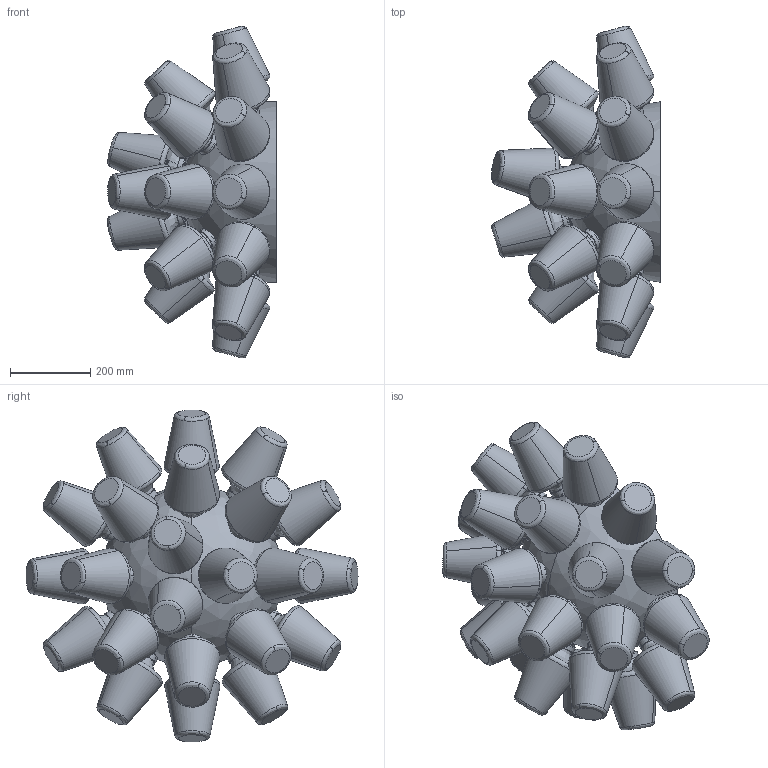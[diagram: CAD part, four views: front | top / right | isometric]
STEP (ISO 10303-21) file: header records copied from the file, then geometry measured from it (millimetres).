
FILE_DESCRIPTION(/* description */ (''),/* implementation_level */ '2;1');
FILE_NAME(/* name */ 'Candy_HalfSphere_CE',/* time_stamp */ '2019-01-11T14:00:14+01:00',/* author */ (''),/* organization */ (''),/* preprocessor_version */ 'ST-DEVELOPER v15',/* originating_system */ '',/* authorisation */ '');
FILE_SCHEMA (('AUTOMOTIVE_DESIGN'));
Length unit declared in the file: millimetre
Products named in the file (2): Document; sklo
Assembly tree (23 placements, depth 2):
  Document
    sklo  x23
Bounding box: 421.69 x 829.77 x 829.77 mm (x, y, z)
Volume: 14266434.6 mm3; surface area: 4429636.7 mm2
Topology: 71 solids, 71 shells, 4353 faces, 11795 edges, 7780 vertices
Faces by surface type: bspline 4353
Entity records: 17107 total; most frequent: CARTESIAN_POINT 9285, B_SPLINE_CURVE_WITH_KNOTS 1580, ORIENTED_EDGE 1186, PCURVE 1186, DEFINITIONAL_REPRESENTATION 1186, SURFACE_CURVE 593, EDGE_CURVE 593, VERTEX_POINT 388
